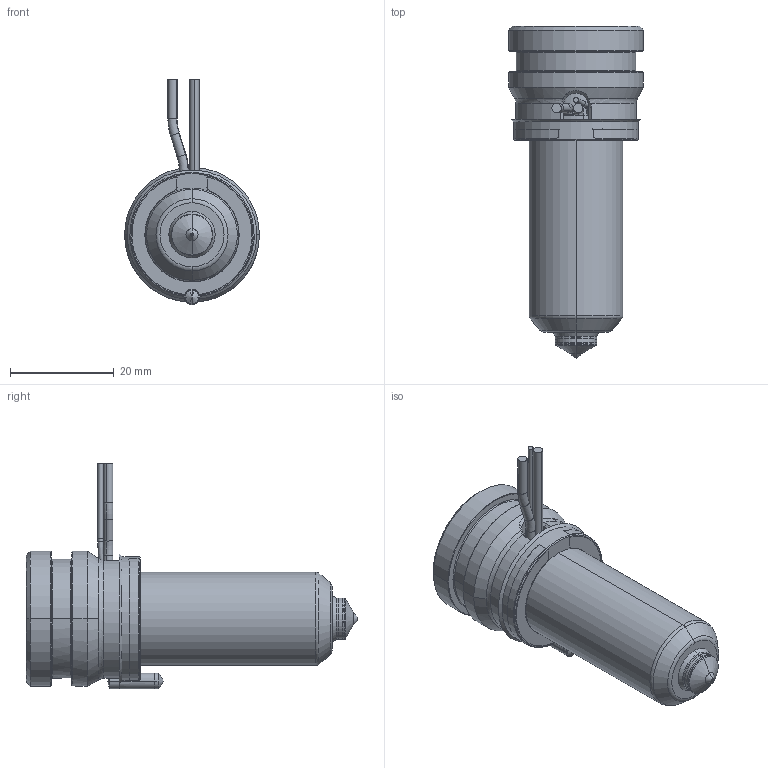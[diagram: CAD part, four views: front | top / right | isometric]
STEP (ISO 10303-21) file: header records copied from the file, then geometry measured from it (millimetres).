
FILE_DESCRIPTION((''),'2;1');
FILE_NAME('MPN-08-24-TS8-046-A','2026-02-05T11:52:18',('UPTIO'),('Thermoplay S.p.A.'),'CREO PARAMETRIC BY PTC INC, 2023494','CREO PARAMETRIC BY PTC INC, 2023494','');
FILE_SCHEMA(('CONFIG_CONTROL_DESIGN','SHAPE_APPEARANCE_LAYERS_GROUPS'));
Length unit declared in the file: millimetre
Products named in the file (1): MPN-08-24-TS8-046-A
Bounding box: 26 x 64 x 43.5 mm (x, y, z)
Volume: 14544.4 mm3; surface area: 16621.3 mm2
Topology: 2 solids, 5 shells, 526 faces, 1389 edges, 865 vertices
Faces by surface type: cylinder 178, plane 137, bspline 73, torus 60, cone 60, sphere 12, extrusion 6
Entity records: 28882 total; most frequent: CARTESIAN_POINT 13312, ORIENTED_EDGE 2758, DIRECTION 2452, EDGE_CURVE 1379, AXIS2_PLACEMENT_3D 958, VERTEX_POINT 865, EDGE_LOOP 552, VECTOR 536
